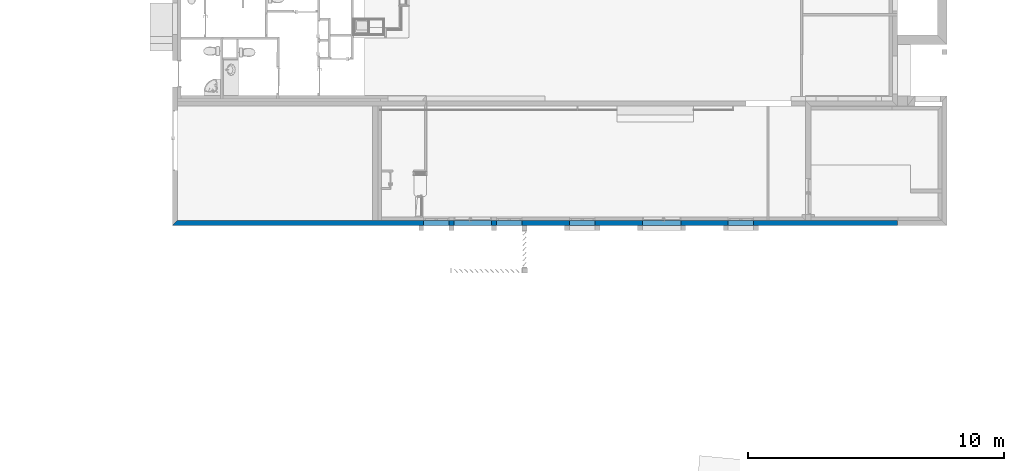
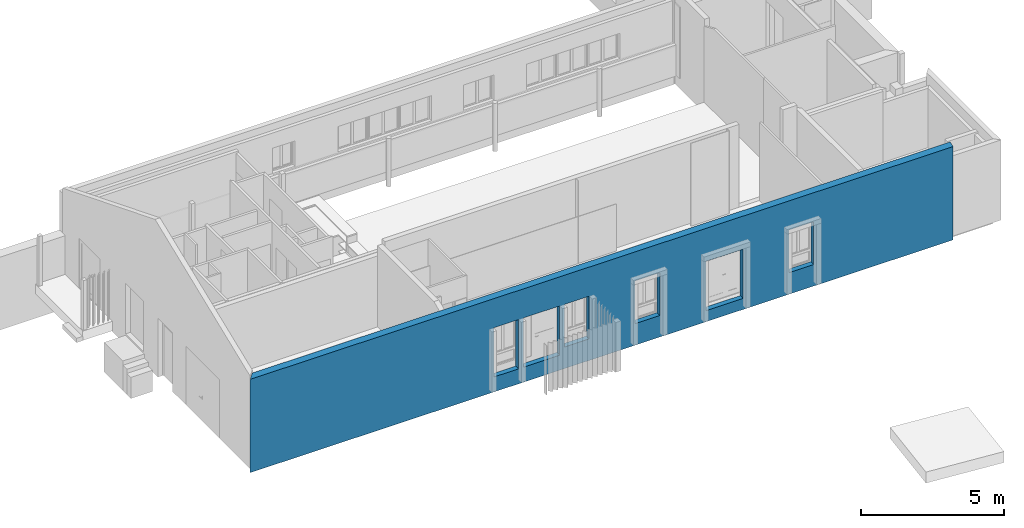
# One storey, part 3 of 34: 1 wall, 6 openings.
"""IFC2X3 building model written with IfcOpenShell, lengths in metres."""

from ifc_helpers import new_model, entity, si_unit, converted_unit, derived_unit, money_unit, direction, frame, origin_with_axes, origin_2d_with_axis, place, context, subcontext, project, spatial, polyline, rectangle, outline, extrude, clip, halfspace, material, layer, layer_set, layer_usage, type_object, element, save


model = new_model("IFC2X3")

# Units and contexts
model_context = context("Model", 3, precision=1e-05, world=origin_with_axes(), true_north=direction((0.0, 1.0)))
body_context = subcontext(model_context, "Body", "Model", "MODEL_VIEW")
ifc_project = project(units=[si_unit("LENGTHUNIT", "METRE"), si_unit("AREAUNIT", "SQUARE_METRE"), si_unit("VOLUMEUNIT", "CUBIC_METRE"), converted_unit("PLANEANGLEUNIT", "DEGREE", entity("IfcPlaneAngleMeasure", 0.0174532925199), si_unit("PLANEANGLEUNIT", "RADIAN"), dimensions=[0, 0, 0, 0, 0, 0, 0]), money_unit("CHF"), converted_unit("TIMEUNIT", "Year", entity("IfcTimeMeasure", 31556926.0), si_unit("TIMEUNIT", "SECOND"), dimensions=[0, 0, 1, 0, 0, 0, 0]), si_unit("MASSUNIT", "GRAM", prefix="KILO"), si_unit("THERMODYNAMICTEMPERATUREUNIT", "DEGREE_CELSIUS"), si_unit("LUMINOUSINTENSITYUNIT", "LUMEN"), si_unit("ENERGYUNIT", "JOULE", prefix="MEGA"), derived_unit("THERMALCONDUCTANCEUNIT", [(si_unit("POWERUNIT", "WATT"), 1), (si_unit("LENGTHUNIT", "METRE"), -1), (si_unit("THERMODYNAMICTEMPERATUREUNIT", "KELVIN"), -1)]), derived_unit("SPECIFICHEATCAPACITYUNIT", [(si_unit("ENERGYUNIT", "JOULE"), 1), (si_unit("MASSUNIT", "GRAM", prefix="KILO"), -1), (si_unit("THERMODYNAMICTEMPERATUREUNIT", "KELVIN"), -1)]), derived_unit("MASSDENSITYUNIT", [(si_unit("MASSUNIT", "GRAM", prefix="KILO"), 1), (si_unit("VOLUMEUNIT", "CUBIC_METRE"), -1)])], contexts=[model_context])

# Site, building, storey
site_placement = place(None, origin_with_axes())
site = spatial("IfcSite", under=ifc_project, at=site_placement, Name="Site", CompositionType="ELEMENT")
building_placement = place(site_placement, origin_with_axes())
building = spatial("IfcBuilding", under=site, at=building_placement, Name="Bâtiment", CompositionType="ELEMENT")
storey_placement = place(building_placement, origin_with_axes())
storey = spatial("IfcBuildingStorey", under=building, at=storey_placement, Name="RDC", CompositionType="ELEMENT", Elevation=-5.32907e-15)

# Wall, openings
ifc_material = material(Name="Diagonales 1167258944")
ifc_layer = layer(ifc_material, 0.2, ventilated="UNKNOWN")
ifc_layer_set = layer_set([ifc_layer], Name="Diagonales 1167258944 0.2")
ifc_layer_usage = layer_usage(ifc_layer_set, "AXIS2", "POSITIVE", 0.0)
wall_type = type_object("IfcWallType", Name="Diagonales 1167258944 200", PredefinedType="NOTDEFINED")
wall_placement = place(storey_placement, frame((1667.41729001, 177.38004191, -0.168646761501), z_axis=(0.0, 0.0, 1.0), x_axis=(1.0, 0.0, 0.0)))
wall = element("IfcWallStandardCase", 1, at=wall_placement, inside=storey, type_object=wall_type, material=ifc_layer_usage, Name="Mur-006", context=body_context, shape_type="Clipping", body=[
    clip(extrude(outline(polyline([(0.0, 0.0), (28.34, 0.0), (28.34, 0.2), (0.2, 0.2), (0.0, 0.0)])), origin_with_axes(), (0.0, 0.0, 1.0), 4.26880854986), halfspace(frame((0.0, -1.37205844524, 3.4301461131), z_axis=(0.0, 0.371390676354, -0.928476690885), x_axis=(0.0, 0.928476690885, 0.371390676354)), True)),
])
opening_1_placement = place(wall_placement, frame((10.32, 0.0, 0.638646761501), z_axis=(0.0, 0.0, 1.0), x_axis=(1.0, 0.0, 0.0)))
element("IfcOpeningElement", 2, at=opening_1_placement, cuts=wall, Name="Fen-003", context=body_context, shape_type="SweptSolid", body=[
    extrude(rectangle(XDim=1.0, YDim=2.1, at=origin_2d_with_axis()), frame((0.0, 0.0, 1.05), z_axis=(0.0, 1.0, 0.0), x_axis=(1.0, 0.0, 0.0)), (0.0, 0.0, -1.0), 0.2),
    extrude(rectangle(XDim=1.0, YDim=2.1, at=origin_2d_with_axis()), frame((0.0, 0.0, 1.05), z_axis=(0.0, -1.0, 0.0), x_axis=(1.0, 0.0, 0.0)), (0.0, 0.0, -1.0), 0.2),
])
opening_2_placement = place(wall_placement, frame((13.17, 0.0, 0.918646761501), z_axis=(0.0, 0.0, 1.0), x_axis=(1.0, 0.0, 0.0)))
element("IfcOpeningElement", 3, at=opening_2_placement, cuts=wall, Name="Fen-003", context=body_context, shape_type="SweptSolid", body=[
    extrude(rectangle(XDim=1.0, YDim=1.82, at=origin_2d_with_axis()), frame((0.0, 0.0, 0.91), z_axis=(0.0, 1.0, 0.0), x_axis=(1.0, 0.0, 0.0)), (0.0, 0.0, -1.0), 0.2),
    extrude(rectangle(XDim=1.0, YDim=1.82, at=origin_2d_with_axis()), frame((0.0, 0.0, 0.91), z_axis=(0.0, -1.0, 0.0), x_axis=(1.0, 0.0, 0.0)), (0.0, 0.0, -1.0), 0.2),
])
opening_3_placement = place(wall_placement, frame((16.02, 0.0, 0.918646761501), z_axis=(0.0, 0.0, 1.0), x_axis=(1.0, 0.0, 0.0)))
element("IfcOpeningElement", 4, at=opening_3_placement, cuts=wall, Name="Fen-003", context=body_context, shape_type="SweptSolid", body=[
    extrude(rectangle(XDim=1.0, YDim=1.82, at=origin_2d_with_axis()), frame((0.0, 0.0, 0.91), z_axis=(0.0, 1.0, 0.0), x_axis=(1.0, 0.0, 0.0)), (0.0, 0.0, -1.0), 0.2),
    extrude(rectangle(XDim=1.0, YDim=1.82, at=origin_2d_with_axis()), frame((0.0, 0.0, 0.91), z_axis=(0.0, -1.0, 0.0), x_axis=(1.0, 0.0, 0.0)), (0.0, 0.0, -1.0), 0.2),
])
opening_4_placement = place(wall_placement, frame((22.22, 0.0, 0.918646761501), z_axis=(0.0, 0.0, 1.0), x_axis=(1.0, 0.0, 0.0)))
element("IfcOpeningElement", 5, at=opening_4_placement, cuts=wall, Name="Fen-003", context=body_context, shape_type="SweptSolid", body=[
    extrude(rectangle(XDim=1.0, YDim=1.82, at=origin_2d_with_axis()), frame((0.0, 0.0, 0.91), z_axis=(0.0, 1.0, 0.0), x_axis=(1.0, 0.0, 0.0)), (0.0, 0.0, -1.0), 0.2),
    extrude(rectangle(XDim=1.0, YDim=1.82, at=origin_2d_with_axis()), frame((0.0, 0.0, 0.91), z_axis=(0.0, -1.0, 0.0), x_axis=(1.0, 0.0, 0.0)), (0.0, 0.0, -1.0), 0.2),
])
opening_5_placement = place(wall_placement, frame((19.12, 0.0, 0.47), z_axis=(0.0, 0.0, 1.0), x_axis=(1.0, 0.0, 0.0)))
element("IfcOpeningElement", 6, at=opening_5_placement, cuts=wall, Name="Por-006", context=body_context, shape_type="SweptSolid", body=[
    extrude(rectangle(XDim=1.5, YDim=2.1, at=origin_2d_with_axis()), frame((0.0, 0.0, 1.05), z_axis=(0.0, 1.0, 0.0), x_axis=(1.0, 0.0, 0.0)), (0.0, 0.0, -1.0), 0.2),
    extrude(rectangle(XDim=1.5, YDim=2.1, at=origin_2d_with_axis()), frame((0.0, 0.0, 1.05), z_axis=(0.0, -1.0, 0.0), x_axis=(1.0, 0.0, 0.0)), (0.0, 0.0, -1.0), 0.2),
])
opening_6_placement = place(wall_placement, frame((11.745, 0.0, 0.638646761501), z_axis=(0.0, 0.0, 1.0), x_axis=(1.0, 0.0, 0.0)))
element("IfcOpeningElement", 7, at=opening_6_placement, cuts=wall, Name="Por-006", context=body_context, shape_type="SweptSolid", body=[
    extrude(rectangle(XDim=1.47, YDim=2.1, at=origin_2d_with_axis()), frame((0.0, 0.0, 1.05), z_axis=(0.0, 1.0, 0.0), x_axis=(1.0, 0.0, 0.0)), (0.0, 0.0, -1.0), 0.2),
    extrude(rectangle(XDim=1.47, YDim=2.1, at=origin_2d_with_axis()), frame((0.0, 0.0, 1.05), z_axis=(0.0, -1.0, 0.0), x_axis=(1.0, 0.0, 0.0)), (0.0, 0.0, -1.0), 0.2),
])

save(model, "model.ifc")
